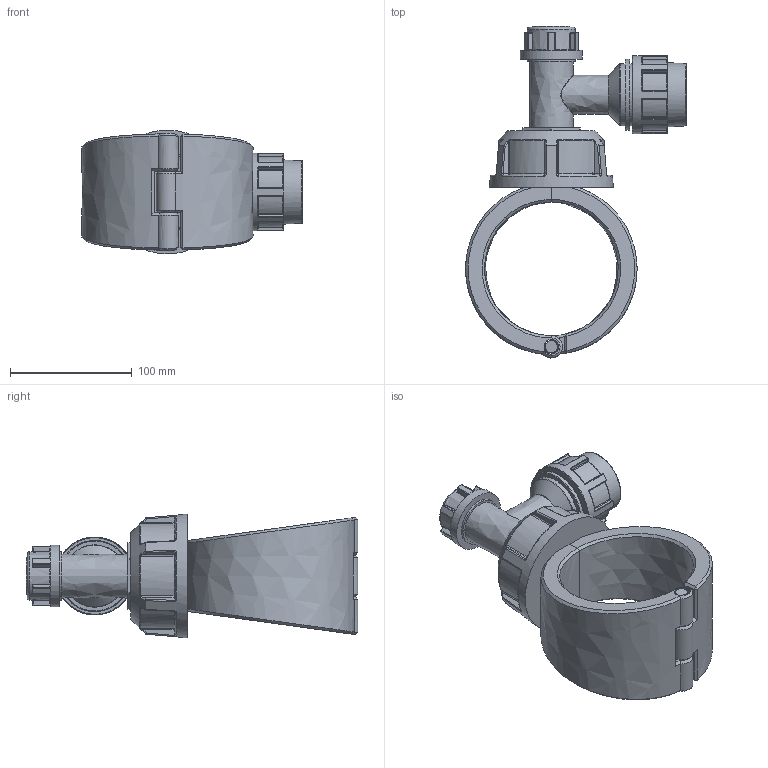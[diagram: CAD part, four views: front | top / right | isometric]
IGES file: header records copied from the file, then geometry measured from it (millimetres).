
Global section: file name: 163100110032_1631061100320A; native system: Autodesk Inventor 2019; preprocessor: unknown; author: comp2; date: 20220203.115747; units: millimetre
Bounding box: 181.48 x 273 x 101.98 mm (x, y, z)
Volume: 1020926.7 mm3; surface area: 144834.6 mm2
Topology: 4 solids, 4 shells, 519 faces, 1253 edges, 754 vertices
Faces by surface type: bspline 519
